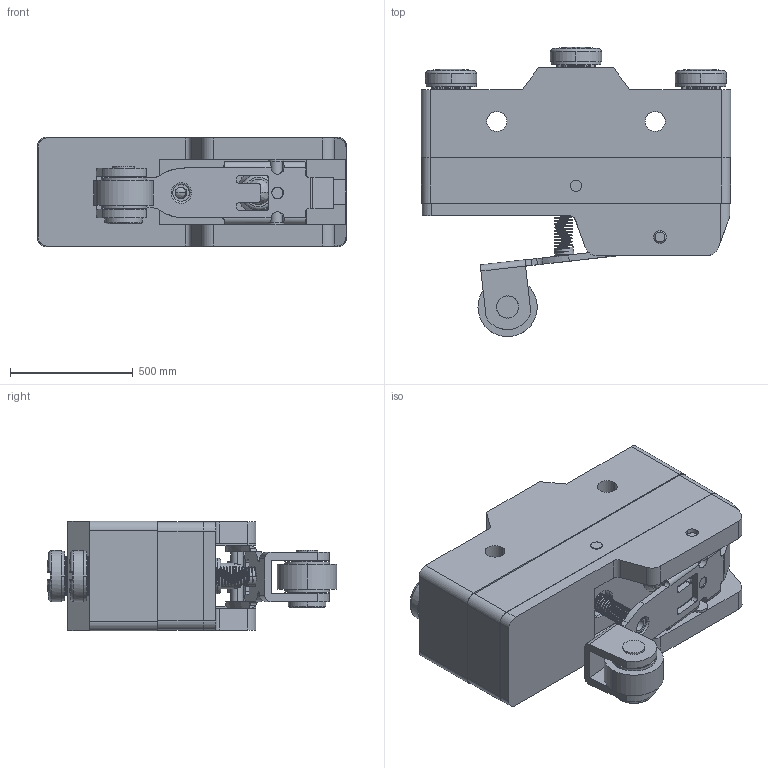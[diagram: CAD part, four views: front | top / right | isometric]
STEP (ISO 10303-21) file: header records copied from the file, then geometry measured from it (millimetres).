
FILE_DESCRIPTION((''),'2;1');
FILE_NAME('ASM0003_ASM','2016-08-17T',('ABS'),(''),'PRO/ENGINEER BY PARAMETRIC TECHNOLOGY CORPORATION, 2012360','PRO/ENGINEER BY PARAMETRIC TECHNOLOGY CORPORATION, 2012360','');
FILE_SCHEMA(('CONFIG_CONTROL_DESIGN'));
Length unit declared in the file: inch
Products named in the file (3): 2; 1; ASM0003_ASM
Assembly tree (2 placements, depth 2):
  ASM0003_ASM
    2
    1
Bounding box: 1259.84 x 1177.17 x 447.04 mm (x, y, z)
Volume: 253539577.5 mm3; surface area: 8678480.2 mm2
Topology: 5 solids, 16 shells, 1090 faces, 3093 edges, 2043 vertices
Faces by surface type: cylinder 582, plane 340, bspline 77, torus 40, cone 30, sphere 21
Entity records: 47880 total; most frequent: CARTESIAN_POINT 19524, ORIENTED_EDGE 6160, DIRECTION 5798, EDGE_CURVE 3080, AXIS2_PLACEMENT_3D 2215, VERTEX_POINT 2043, VECTOR 1368, LINE 1368
